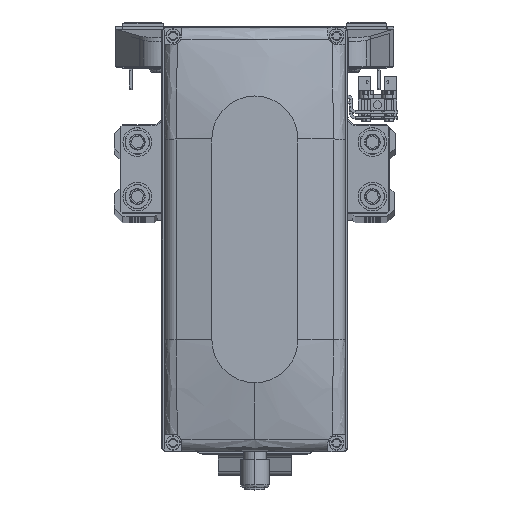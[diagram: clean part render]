
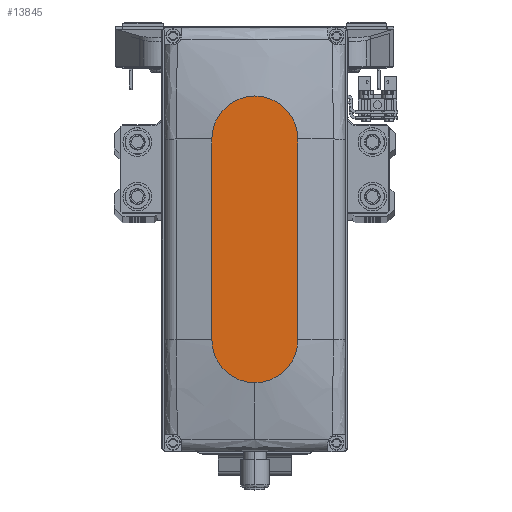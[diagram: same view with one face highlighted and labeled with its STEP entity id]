
A CAD part, top view. The second image highlights one B-rep face of the part: STEP entity #13845.
In plain terms, the highlighted planar face has unit normal (0, 0, 1).
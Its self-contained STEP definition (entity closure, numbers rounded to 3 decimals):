
#122 = LINE ( 'NONE', #15347, #48298 ) ;
#522 = DIRECTION ( 'NONE',  ( 1., 0., 0. ) ) ;
#1921 = CARTESIAN_POINT ( 'NONE',  ( 35., -15., 35. ) ) ;
#2177 = CARTESIAN_POINT ( 'NONE',  ( 0., 0., 35. ) ) ;
#2396 = EDGE_CURVE ( 'NONE', #26527, #20744, #33754, .T. ) ;
#4251 = EDGE_CURVE ( 'NONE', #28335, #26527, #15263, .T. ) ;
#6601 = ORIENTED_EDGE ( 'NONE', *, *, #2396, .T. ) ;
#9759 = ORIENTED_EDGE ( 'NONE', *, *, #4251, .T. ) ;
#10450 = AXIS2_PLACEMENT_3D ( 'NONE', #19470, #34746, #522 ) ;
#12173 = AXIS2_PLACEMENT_3D ( 'NONE', #32363, #47641, #13372 ) ;
#13372 = DIRECTION ( 'NONE',  ( 1., 0., 0. ) ) ;
#13845 = ADVANCED_FACE ( 'NONE', ( #21127 ), #36398, .T. ) ;
#15068 = CARTESIAN_POINT ( 'NONE',  ( 50., 0., 35. ) ) ;
#15263 = LINE ( 'NONE', #30511, #24339 ) ;
#15347 = CARTESIAN_POINT ( 'NONE',  ( -35., 15., 35. ) ) ;
#15698 = CARTESIAN_POINT ( 'NONE',  ( -35., -15., 35. ) ) ;
#16774 = EDGE_CURVE ( 'NONE', #20744, #31905, #32007, .T. ) ;
#17086 = AXIS2_PLACEMENT_3D ( 'NONE', #17457, #32708, #47968 ) ;
#17391 = DIRECTION ( 'NONE',  ( 0., 0., 1. ) ) ;
#17457 = CARTESIAN_POINT ( 'NONE',  ( -35., 0., 35. ) ) ;
#19470 = CARTESIAN_POINT ( 'NONE',  ( 35., 0., 35. ) ) ;
#20744 = VERTEX_POINT ( 'NONE', #15068 ) ;
#21127 = FACE_OUTER_BOUND ( 'NONE', #37781, .T. ) ;
#23813 = VERTEX_POINT ( 'NONE', #31017 ) ;
#24339 = VECTOR ( 'NONE', #45787, 1000. ) ;
#26527 = VERTEX_POINT ( 'NONE', #1921 ) ;
#27000 = ORIENTED_EDGE ( 'NONE', *, *, #27820, .T. ) ;
#27122 = AXIS2_PLACEMENT_3D ( 'NONE', #2177, #17391, #32639 ) ;
#27820 = EDGE_CURVE ( 'NONE', #23813, #28335, #38641, .T. ) ;
#28335 = VERTEX_POINT ( 'NONE', #15698 ) ;
#30511 = CARTESIAN_POINT ( 'NONE',  ( -35., -15., 35. ) ) ;
#30603 = DIRECTION ( 'NONE',  ( -1., 0., 0. ) ) ;
#31017 = CARTESIAN_POINT ( 'NONE',  ( -35., 15., 35. ) ) ;
#31905 = VERTEX_POINT ( 'NONE', #40329 ) ;
#32007 = CIRCLE ( 'NONE', #10450, 15. ) ;
#32363 = CARTESIAN_POINT ( 'NONE',  ( 35., 0., 35. ) ) ;
#32639 = DIRECTION ( 'NONE',  ( 1., 0., 0. ) ) ;
#32708 = DIRECTION ( 'NONE',  ( 0., 0., 1. ) ) ;
#33754 = CIRCLE ( 'NONE', #12173, 15. ) ;
#34746 = DIRECTION ( 'NONE',  ( 0., 0., 1. ) ) ;
#36398 = PLANE ( 'NONE',  #27122 ) ;
#37781 = EDGE_LOOP ( 'NONE', ( #39256, #27000, #9759, #6601, #47349 ) ) ;
#38641 = CIRCLE ( 'NONE', #17086, 15. ) ;
#39256 = ORIENTED_EDGE ( 'NONE', *, *, #41378, .T. ) ;
#40329 = CARTESIAN_POINT ( 'NONE',  ( 35., 15., 35. ) ) ;
#41378 = EDGE_CURVE ( 'NONE', #31905, #23813, #122, .T. ) ;
#45787 = DIRECTION ( 'NONE',  ( 1., 0., 0. ) ) ;
#47349 = ORIENTED_EDGE ( 'NONE', *, *, #16774, .T. ) ;
#47641 = DIRECTION ( 'NONE',  ( 0., 0., 1. ) ) ;
#47968 = DIRECTION ( 'NONE',  ( 1., 0., 0. ) ) ;
#48298 = VECTOR ( 'NONE', #30603, 1000. ) ;
